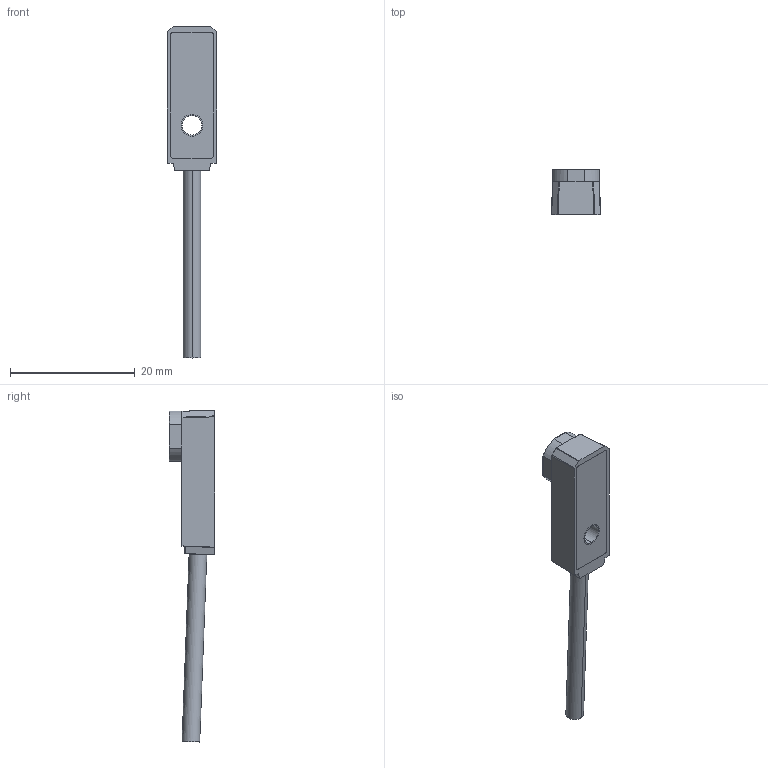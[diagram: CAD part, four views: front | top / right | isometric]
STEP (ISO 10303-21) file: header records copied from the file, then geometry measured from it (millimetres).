
FILE_DESCRIPTION (( 'STEP AP203' ), '1' );
FILE_NAME ('SL-8F¡õ.STE', '2020-10-23T09:15:18', ( '' ), ( '' ), 'SwSTEP 2.0', 'SolidWorks 2020', '' );
FILE_SCHEMA (( 'CONFIG_CONTROL_DESIGN' ));
Length unit declared in the file: millimetre
Products named in the file (1): SL-8F¡õ__
Bounding box: 7.9 x 7.3 x 53.13 mm (x, y, z)
Volume: 1169.1 mm3; surface area: 1124.3 mm2
Topology: 1 solids, 1 shells, 103 faces, 265 edges, 166 vertices
Faces by surface type: plane 45, cylinder 44, bspline 6, sphere 4, torus 4
Entity records: 3370 total; most frequent: CARTESIAN_POINT 883, ORIENTED_EDGE 522, DIRECTION 485, EDGE_CURVE 261, AXIS2_PLACEMENT_3D 168, VERTEX_POINT 166, LINE 149, VECTOR 149
